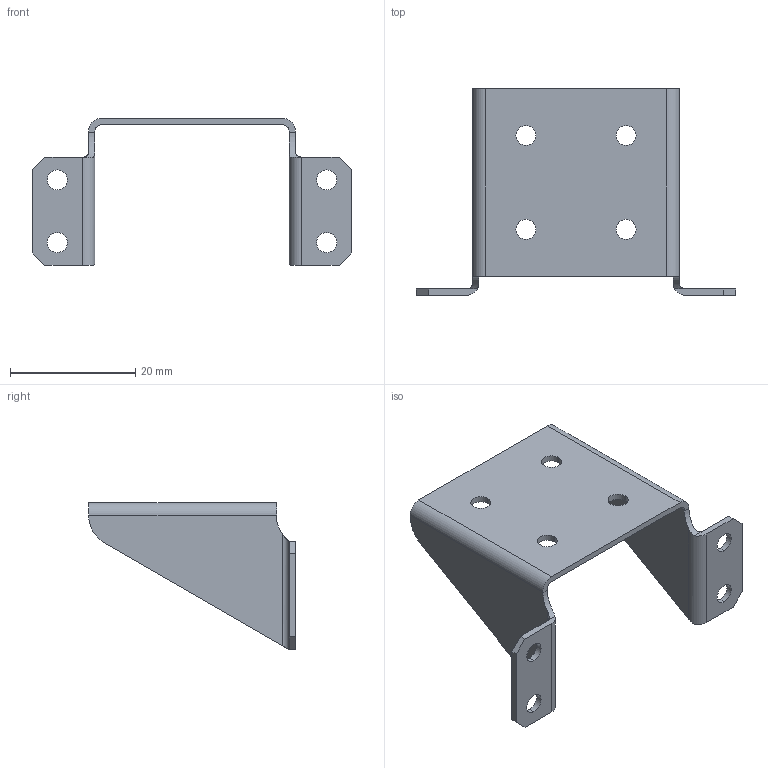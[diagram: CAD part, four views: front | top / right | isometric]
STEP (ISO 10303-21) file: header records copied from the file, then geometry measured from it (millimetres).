
FILE_DESCRIPTION (( 'STEP AP214' ), '1' );
FILE_NAME ('CAS2-00-010-BRACKET.STEP', '2021-11-08T01:17:28', ( '' ), ( '' ), 'SwSTEP 2.0', 'SolidWorks 2021', '' );
FILE_SCHEMA (( 'AUTOMOTIVE_DESIGN' ));
Length unit declared in the file: millimetre
Products named in the file (1): CAS2-00-010-BRACKET
Bounding box: 51 x 33 x 23.48 mm (x, y, z)
Volume: 2031.9 mm3; surface area: 4367.5 mm2
Topology: 1 solids, 1 shells, 52 faces, 146 edges, 96 vertices
Faces by surface type: cylinder 28, plane 24
Entity records: 1778 total; most frequent: CARTESIAN_POINT 337, DIRECTION 296, ORIENTED_EDGE 292, EDGE_CURVE 146, AXIS2_PLACEMENT_3D 105, VERTEX_POINT 96, VECTOR 86, LINE 86
